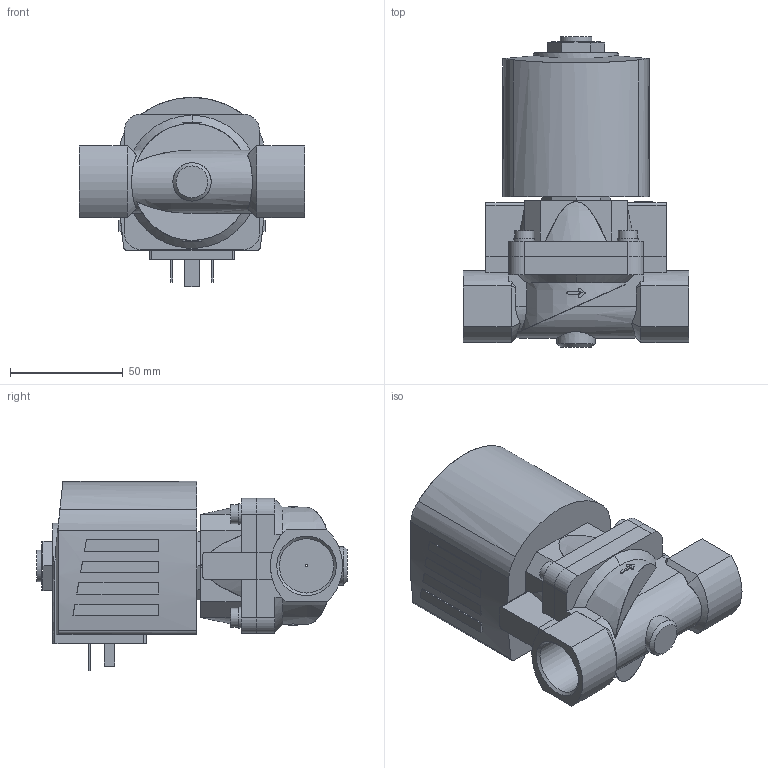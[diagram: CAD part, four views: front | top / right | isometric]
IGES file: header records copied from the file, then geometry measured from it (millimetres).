
Start section: Data from Parasolid IGES Translator 26.0.171, Copyright(c) 2006 Siemens PLM Software. All Rights Reserved.
Global section: file name: 6407-374925-Servo-assisted_2_2_way_piston_valve.igs; native system: By Siemens PLM Incorporated; preprocessor: XPlus GENERIC/IGES 26.0.171; author: Noname; organization: Noname; date: 20240702.123301; units: millimetre
Bounding box: 100 x 137.7 x 84 mm (x, y, z)
Surface area: 60195.1 mm2 (no closed solid volume)
Topology: 0 solids, 0 shells, 279 faces, 1486 edges, 1479 vertices
Faces by surface type: extrusion 178, revolution 101
